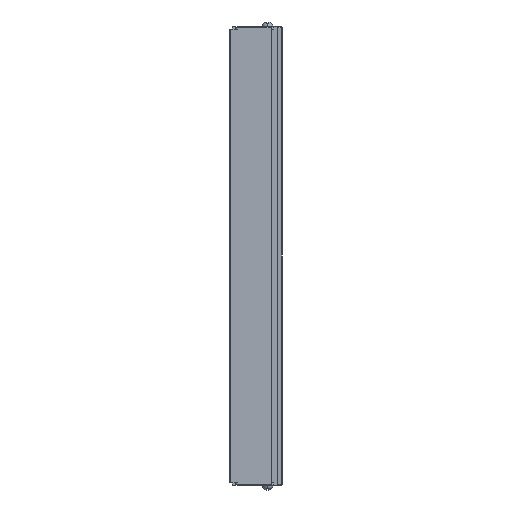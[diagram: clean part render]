
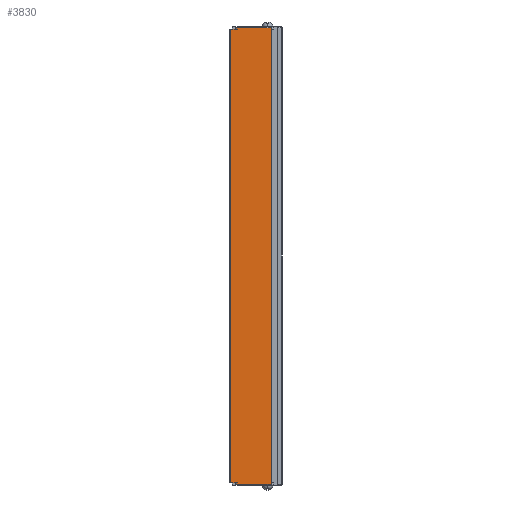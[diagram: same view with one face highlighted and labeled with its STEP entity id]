
A CAD part, left-side view. The second image highlights one B-rep face of the part: STEP entity #3830.
In plain terms, the highlighted planar face has unit normal (-1, 0, 0).
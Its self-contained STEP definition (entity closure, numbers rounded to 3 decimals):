
#466=DIRECTION('',(0.,1.,0.));
#467=VECTOR('',#466,3.303);
#468=CARTESIAN_POINT('',(-14.,13.197,117.));
#469=LINE('',#468,#467);
#839=DIRECTION('',(0.,1.,0.));
#840=VECTOR('',#839,17.497);
#841=CARTESIAN_POINT('',(-14.,-4.3,118.));
#842=LINE('',#841,#840);
#847=DIRECTION('',(0.,0.,1.));
#848=VECTOR('',#847,236.);
#849=CARTESIAN_POINT('',(-14.,-4.3,-118.));
#850=LINE('',#849,#848);
#1202=DIRECTION('',(0.,0.,-1.));
#1203=VECTOR('',#1202,234.);
#1204=CARTESIAN_POINT('',(-14.,16.5,117.));
#1205=LINE('',#1204,#1203);
#1206=DIRECTION('',(0.,0.,1.));
#1207=VECTOR('',#1206,1.);
#1208=CARTESIAN_POINT('',(-14.,13.197,-118.));
#1209=LINE('',#1208,#1207);
#1210=DIRECTION('',(0.,1.,0.));
#1211=VECTOR('',#1210,3.303);
#1212=CARTESIAN_POINT('',(-14.,13.197,-117.));
#1213=LINE('',#1212,#1211);
#1214=DIRECTION('',(0.,0.,1.));
#1215=VECTOR('',#1214,1.);
#1216=CARTESIAN_POINT('',(-14.,13.197,117.));
#1217=LINE('',#1216,#1215);
#1222=DIRECTION('',(0.,-1.,0.));
#1223=VECTOR('',#1222,17.497);
#1224=CARTESIAN_POINT('',(-14.,13.197,-118.));
#1225=LINE('',#1224,#1223);
#1810=CARTESIAN_POINT('',(-14.,16.5,-117.));
#1811=VERTEX_POINT('',#1810);
#1820=CARTESIAN_POINT('',(-14.,16.5,117.));
#1821=VERTEX_POINT('',#1820);
#2026=CARTESIAN_POINT('',(-14.,13.197,118.));
#2027=VERTEX_POINT('',#2026);
#2052=CARTESIAN_POINT('',(-14.,-4.3,118.));
#2053=VERTEX_POINT('',#2052);
#2098=CARTESIAN_POINT('',(-14.,13.197,117.));
#2100=VERTEX_POINT('',#2098);
#2284=CARTESIAN_POINT('',(-14.,13.197,-118.));
#2285=VERTEX_POINT('',#2284);
#2286=CARTESIAN_POINT('',(-14.,-4.3,-118.));
#2287=VERTEX_POINT('',#2286);
#2328=CARTESIAN_POINT('',(-14.,13.197,-117.));
#2329=VERTEX_POINT('',#2328);
#3813=CARTESIAN_POINT('',(-14.,16.5,-117.));
#3814=DIRECTION('',(-1.,0.,0.));
#3815=DIRECTION('',(0.,-1.,0.));
#3816=AXIS2_PLACEMENT_3D('',#3813,#3814,#3815);
#3817=PLANE('',#3816);
#3818=ORIENTED_EDGE('',*,*,#3213,.F.);
#3820=ORIENTED_EDGE('',*,*,#3819,.F.);
#3822=ORIENTED_EDGE('',*,*,#3821,.T.);
#3823=ORIENTED_EDGE('',*,*,#2447,.T.);
#3824=ORIENTED_EDGE('',*,*,#3808,.F.);
#3825=ORIENTED_EDGE('',*,*,#2856,.F.);
#3826=ORIENTED_EDGE('',*,*,#3183,.T.);
#3827=ORIENTED_EDGE('',*,*,#3198,.F.);
#3828=EDGE_LOOP('',(#3818,#3820,#3822,#3823,#3824,#3825,#3826,#3827));
#3829=FACE_OUTER_BOUND('',#3828,.F.);
#2447=EDGE_CURVE('',#2329,#1811,#1213,.T.);
#2856=EDGE_CURVE('',#2100,#1821,#469,.T.);
#3183=EDGE_CURVE('',#2100,#2027,#1217,.T.);
#3198=EDGE_CURVE('',#2053,#2027,#842,.T.);
#3213=EDGE_CURVE('',#2287,#2053,#850,.T.);
#3808=EDGE_CURVE('',#1821,#1811,#1205,.T.);
#3819=EDGE_CURVE('',#2285,#2287,#1225,.T.);
#3821=EDGE_CURVE('',#2285,#2329,#1209,.T.);
#3830=ADVANCED_FACE('',(#3829),#3817,.T.);
